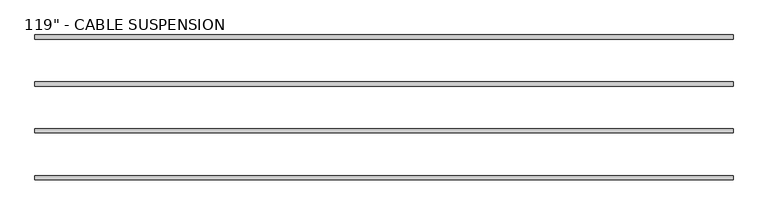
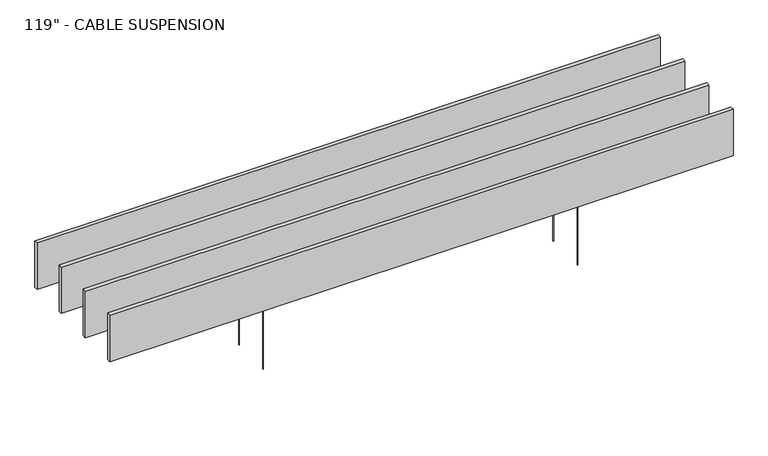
"""IFC4 building model written with IfcOpenShell, lengths in millimetres: proxy geometry."""

from ifc_helpers import new_model, si_unit, point, frame, frame_2d, origin, origin_with_axes, place, context, project, spatial, polyline, circle_curve, trimmed, segment, composite_curve, outline, extrude, source, transform, mapped, element, save


def proxy_0f068731(model_context):
    return source(origin(), model_context, "Body", "SweptSolid", [
        extrude(outline(composite_curve([segment(trimmed(circle_curve(frame_2d((-762.0, 609.6)), 1.5400297), [point((-763.5400297, 609.6))], [point((-760.4599703, 609.6))], False, "CARTESIAN"), True, "CONTINUOUS"), segment(trimmed(circle_curve(frame_2d((-762.0, 609.6)), 1.5400297), [point((-760.4599703, 609.6))], [point((-763.5400297, 609.6))], False, "CARTESIAN"), True, "CONTINUOUS")], self_intersect=False)), origin_with_axes(), (0.0, 0.0, 1.0), 313.53125),
        extrude(outline(composite_curve([segment(trimmed(circle_curve(frame_2d((762.0, 609.6)), 1.5400297), [point((760.4599703, 609.6))], [point((763.5400297, 609.6))], False, "CARTESIAN"), True, "CONTINUOUS"), segment(trimmed(circle_curve(frame_2d((762.0, 609.6)), 1.5400297), [point((763.5400297, 609.6))], [point((760.4599703, 609.6))], False, "CARTESIAN"), True, "CONTINUOUS")], self_intersect=False)), origin_with_axes(), (0.0, 0.0, 1.0), 313.53125),
        extrude(outline(polyline([(-1511.3, 600.59951), (-1511.3, 618.60049), (1511.3, 618.60049), (1511.3, 600.59951), (-1511.3, 600.59951)])), frame((0.0, 0.0, 304.8), z_axis=(0.0, 0.0, 1.0), x_axis=(1.0, 0.0, 0.0)), (0.0, 0.0, 1.0), 238.125),
        extrude(outline(composite_curve([segment(trimmed(circle_curve(frame_2d((-762.0, 406.4)), 1.5400297), [point((-763.5400297, 406.4))], [point((-760.4599703, 406.4))], False, "CARTESIAN"), True, "CONTINUOUS"), segment(trimmed(circle_curve(frame_2d((-762.0, 406.4)), 1.5400297), [point((-760.4599703, 406.4))], [point((-763.5400297, 406.4))], False, "CARTESIAN"), True, "CONTINUOUS")], self_intersect=False)), origin_with_axes(), (0.0, 0.0, 1.0), 313.53125),
        extrude(outline(composite_curve([segment(trimmed(circle_curve(frame_2d((762.0, 406.4)), 1.5400297), [point((760.4599703, 406.4))], [point((763.5400297, 406.4))], False, "CARTESIAN"), True, "CONTINUOUS"), segment(trimmed(circle_curve(frame_2d((762.0, 406.4)), 1.5400297), [point((763.5400297, 406.4))], [point((760.4599703, 406.4))], False, "CARTESIAN"), True, "CONTINUOUS")], self_intersect=False)), origin_with_axes(), (0.0, 0.0, 1.0), 313.53125),
        extrude(outline(polyline([(-1511.3, 397.39951), (-1511.3, 415.40049), (1511.3, 415.40049), (1511.3, 397.39951), (-1511.3, 397.39951)])), frame((0.0, 0.0, 304.8), z_axis=(0.0, 0.0, 1.0), x_axis=(1.0, 0.0, 0.0)), (0.0, 0.0, 1.0), 238.125),
        extrude(outline(composite_curve([segment(trimmed(circle_curve(frame_2d((-762.0, 203.2)), 1.5400297), [point((-763.5400297, 203.2))], [point((-760.4599703, 203.2))], False, "CARTESIAN"), True, "CONTINUOUS"), segment(trimmed(circle_curve(frame_2d((-762.0, 203.2)), 1.5400297), [point((-760.4599703, 203.2))], [point((-763.5400297, 203.2))], False, "CARTESIAN"), True, "CONTINUOUS")], self_intersect=False)), origin_with_axes(), (0.0, 0.0, 1.0), 313.53125),
        extrude(outline(composite_curve([segment(trimmed(circle_curve(frame_2d((762.0, 203.2)), 1.5400297), [point((760.4599703, 203.2))], [point((763.5400297, 203.2))], False, "CARTESIAN"), True, "CONTINUOUS"), segment(trimmed(circle_curve(frame_2d((762.0, 203.2)), 1.5400297), [point((763.5400297, 203.2))], [point((760.4599703, 203.2))], False, "CARTESIAN"), True, "CONTINUOUS")], self_intersect=False)), origin_with_axes(), (0.0, 0.0, 1.0), 313.53125),
        extrude(outline(polyline([(-1511.3, 194.19951), (-1511.3, 212.20049), (1511.3, 212.20049), (1511.3, 194.19951), (-1511.3, 194.19951)])), frame((0.0, 0.0, 304.8), z_axis=(0.0, 0.0, 1.0), x_axis=(1.0, 0.0, 0.0)), (0.0, 0.0, 1.0), 238.125),
        extrude(outline(composite_curve([segment(trimmed(circle_curve(frame_2d((-762.0, 0.0)), 1.5400297), [point((-763.5400297, 0.0))], [point((-760.4599703, 0.0))], False, "CARTESIAN"), True, "CONTINUOUS"), segment(trimmed(circle_curve(frame_2d((-762.0, 0.0)), 1.5400297), [point((-760.4599703, 0.0))], [point((-763.5400297, 0.0))], False, "CARTESIAN"), True, "CONTINUOUS")], self_intersect=False)), origin_with_axes(), (0.0, 0.0, 1.0), 313.53125),
        extrude(outline(composite_curve([segment(trimmed(circle_curve(frame_2d((762.0, 0.0)), 1.5400297), [point((760.4599703, 0.0))], [point((763.5400297, 0.0))], False, "CARTESIAN"), True, "CONTINUOUS"), segment(trimmed(circle_curve(frame_2d((762.0, 0.0)), 1.5400297), [point((763.5400297, 0.0))], [point((760.4599703, 0.0))], False, "CARTESIAN"), True, "CONTINUOUS")], self_intersect=False)), origin_with_axes(), (0.0, 0.0, 1.0), 313.53125),
        extrude(outline(polyline([(-1511.3, -9.00049), (-1511.3, 9.00049), (1511.3, 9.00049), (1511.3, -9.00049), (-1511.3, -9.00049)])), frame((0.0, 0.0, 304.8), z_axis=(0.0, 0.0, 1.0), x_axis=(1.0, 0.0, 0.0)), (0.0, 0.0, 1.0), 238.125),
    ])


if __name__ == "__main__":
    model = new_model("IFC4")
    model_context = context("Model", 3, world=origin())
    ifc_project = project(units=[si_unit("LENGTHUNIT", "METRE", prefix="MILLI")], contexts=[model_context])
    site = spatial("IfcSite", under=ifc_project)
    building = spatial("IfcBuilding", under=site)
    placement = place(None, origin())
    proxy_shape = proxy_0f068731(model_context)
    element("IfcBuildingElementProxy", 1, Name="SE_TIMBER BAFFLE_MULTI-SYSTEM_FB_TURF : 119\" - CABLE SUSPENSION", ObjectType="SE_TIMBER BAFFLE_MULTI-SYSTEM_FB_TURF : 119\" - CABLE SUSPENSION", at=placement, inside=building, context=model_context, shape_type="MappedRepresentation", body=[
        mapped(proxy_shape, transform((0.0, 0.0, 0.0), x_axis=(1.0, 0.0, 0.0), y_axis=(0.0, 1.0, 0.0), z_axis=(0.0, 0.0, 1.0))),
    ])
    save(model, "model.ifc")
